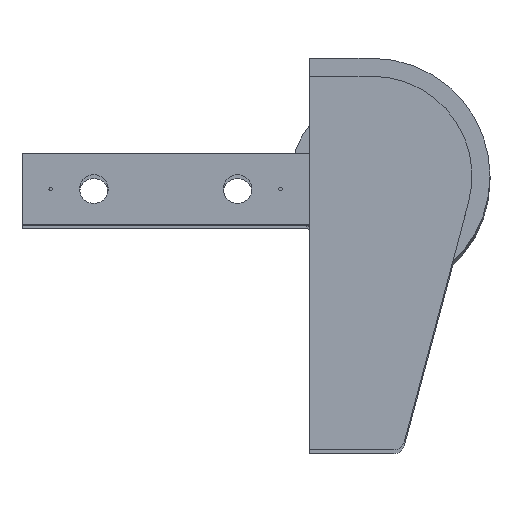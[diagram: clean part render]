
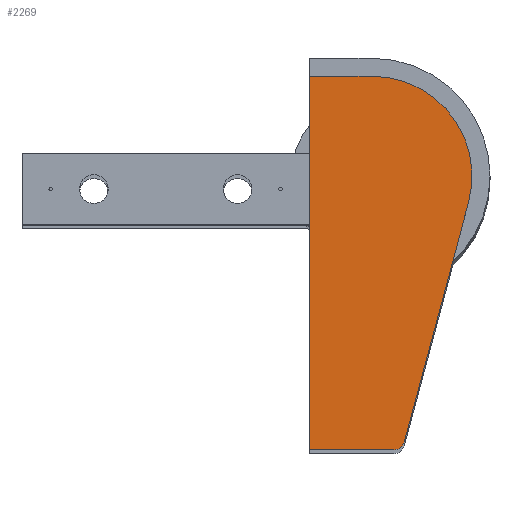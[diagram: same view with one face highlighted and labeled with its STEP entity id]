
A CAD part, top view. The second image highlights one B-rep face of the part: STEP entity #2269.
In plain terms, the highlighted planar face has unit normal (0, 0, 1).
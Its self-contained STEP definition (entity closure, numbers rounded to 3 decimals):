
#34 = DIRECTION ( 'NONE',  ( 1., 0., 0. ) ) ;
#62 = DIRECTION ( 'NONE',  ( -1., 0., 0. ) ) ;
#68 = ORIENTED_EDGE ( 'NONE', *, *, #2083, .T. ) ;
#82 = CARTESIAN_POINT ( 'NONE',  ( 3273.261, -5., 310.5 ) ) ;
#104 = DIRECTION ( 'NONE',  ( -1., 0., 0. ) ) ;
#138 = VERTEX_POINT ( 'NONE', #303 ) ;
#149 = LINE ( 'NONE', #800, #1153 ) ;
#203 = CARTESIAN_POINT ( 'NONE',  ( 3249.7, -109., 310.5 ) ) ;
#262 = DIRECTION ( 'NONE',  ( 0., 0., 1. ) ) ;
#295 = DIRECTION ( 'NONE',  ( 1., 0., 0. ) ) ;
#303 = CARTESIAN_POINT ( 'NONE',  ( 3276.159, -106.776, 310.5 ) ) ;
#336 = DIRECTION ( 'NONE',  ( 0.259, 0.966, 0. ) ) ;
#359 = AXIS2_PLACEMENT_3D ( 'NONE', #526, #1447, #34 ) ;
#369 = FACE_OUTER_BOUND ( 'NONE', #1042, .T. ) ;
#456 = EDGE_CURVE ( 'NONE', #1266, #784, #1895, .T. ) ;
#526 = CARTESIAN_POINT ( 'NONE',  ( 3273.261, -106., 310.5 ) ) ;
#533 = CIRCLE ( 'NONE', #1662, 3. ) ;
#562 = CARTESIAN_POINT ( 'NONE',  ( 3294.053, -39.995, 310.5 ) ) ;
#721 = EDGE_CURVE ( 'NONE', #138, #1266, #1364, .T. ) ;
#743 = DIRECTION ( 'NONE',  ( -1., 0., 0. ) ) ;
#748 = CARTESIAN_POINT ( 'NONE',  ( 3276.159, -106.776, 310.5 ) ) ;
#760 = DIRECTION ( 'NONE',  ( 0., 0., 1. ) ) ;
#784 = VERTEX_POINT ( 'NONE', #799 ) ;
#795 = CARTESIAN_POINT ( 'NONE',  ( 3267.2, -32.8, 310.5 ) ) ;
#799 = CARTESIAN_POINT ( 'NONE',  ( 3267.2, -5., 310.5 ) ) ;
#800 = CARTESIAN_POINT ( 'NONE',  ( 3249.7, -46.4, 310.5 ) ) ;
#830 = EDGE_CURVE ( 'NONE', #784, #1587, #1857, .T. ) ;
#875 = ORIENTED_EDGE ( 'NONE', *, *, #969, .T. ) ;
#880 = ORIENTED_EDGE ( 'NONE', *, *, #721, .T. ) ;
#888 = VECTOR ( 'NONE', #336, 1000. ) ;
#952 = VECTOR ( 'NONE', #295, 1000. ) ;
#969 = EDGE_CURVE ( 'NONE', #1587, #2234, #149, .T. ) ;
#970 = VECTOR ( 'NONE', #62, 1000. ) ;
#1042 = EDGE_LOOP ( 'NONE', ( #1243, #2062, #875, #68, #1140, #880 ) ) ;
#1043 = CARTESIAN_POINT ( 'NONE',  ( 3273.261, -109., 310.5 ) ) ;
#1093 = PLANE ( 'NONE',  #359 ) ;
#1140 = ORIENTED_EDGE ( 'NONE', *, *, #2057, .T. ) ;
#1153 = VECTOR ( 'NONE', #1344, 1000. ) ;
#1243 = ORIENTED_EDGE ( 'NONE', *, *, #456, .T. ) ;
#1266 = VERTEX_POINT ( 'NONE', #562 ) ;
#1344 = DIRECTION ( 'NONE',  ( 0., -1., 0. ) ) ;
#1364 = LINE ( 'NONE', #748, #888 ) ;
#1447 = DIRECTION ( 'NONE',  ( 0., 0., 1. ) ) ;
#1456 = LINE ( 'NONE', #1532, #952 ) ;
#1532 = CARTESIAN_POINT ( 'NONE',  ( 3249.7, -109., 310.5 ) ) ;
#1587 = VERTEX_POINT ( 'NONE', #1724 ) ;
#1662 = AXIS2_PLACEMENT_3D ( 'NONE', #1809, #760, #743 ) ;
#1724 = CARTESIAN_POINT ( 'NONE',  ( 3249.7, -5., 310.5 ) ) ;
#1771 = VERTEX_POINT ( 'NONE', #1043 ) ;
#1809 = CARTESIAN_POINT ( 'NONE',  ( 3273.261, -106., 310.5 ) ) ;
#1857 = LINE ( 'NONE', #82, #970 ) ;
#1895 = CIRCLE ( 'NONE', #2104, 27.8 ) ;
#2057 = EDGE_CURVE ( 'NONE', #1771, #138, #533, .T. ) ;
#2062 = ORIENTED_EDGE ( 'NONE', *, *, #830, .T. ) ;
#2083 = EDGE_CURVE ( 'NONE', #2234, #1771, #1456, .T. ) ;
#2104 = AXIS2_PLACEMENT_3D ( 'NONE', #795, #262, #104 ) ;
#2234 = VERTEX_POINT ( 'NONE', #203 ) ;
#2269 = ADVANCED_FACE ( 'NONE', ( #369 ), #1093, .T. ) ;
